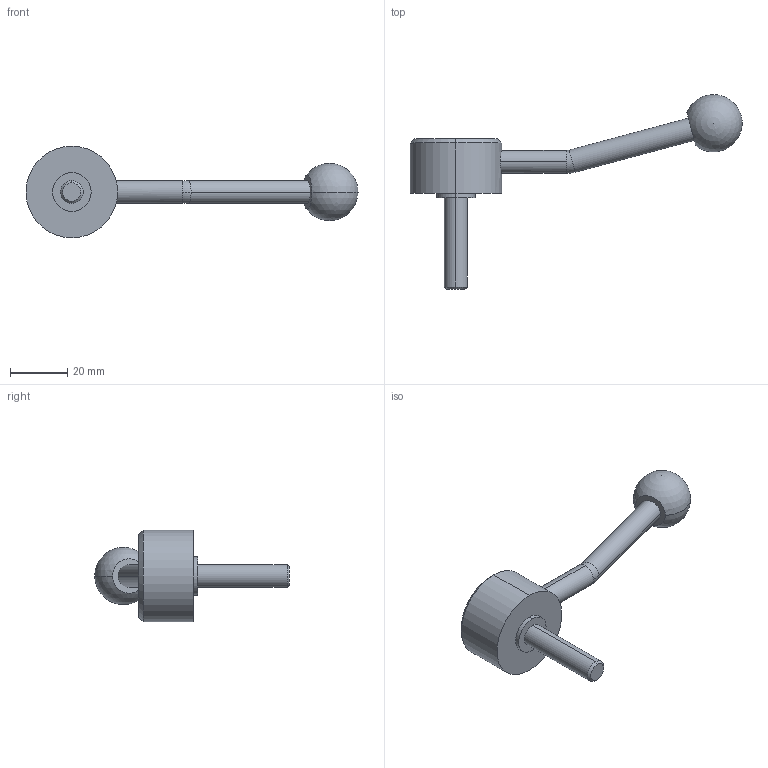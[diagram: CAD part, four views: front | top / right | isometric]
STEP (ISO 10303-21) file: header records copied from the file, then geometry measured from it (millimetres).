
FILE_DESCRIPTION (( 'STEP AP214' ), '1' );
FILE_NAME ('125.5-32-M8-32-E.step', '2020-02-18T11:26:37', ( '' ), ( '' ), 'SwSTEP 2.0', 'SolidWorks 2019', '' );
FILE_SCHEMA (( 'AUTOMOTIVE_DESIGN' ));
Length unit declared in the file: millimetre
Products named in the file (1): 125.5-32-M8-32-E
Bounding box: 115.96 x 68 x 32 mm (x, y, z)
Volume: 24547.4 mm3; surface area: 7145.9 mm2
Topology: 1 solids, 1 shells, 26 faces, 57 edges, 36 vertices
Faces by surface type: cylinder 12, plane 6, cone 4, torus 2, sphere 2
Entity records: 852 total; most frequent: CARTESIAN_POINT 178, DIRECTION 138, ORIENTED_EDGE 104, AXIS2_PLACEMENT_3D 61, EDGE_CURVE 52, CIRCLE 34, VERTEX_POINT 33, EDGE_LOOP 31
